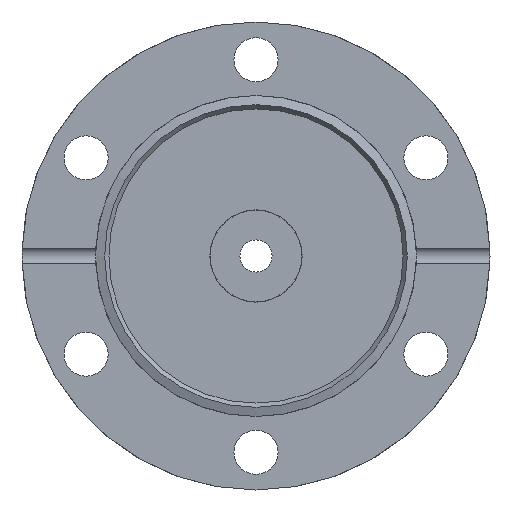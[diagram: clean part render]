
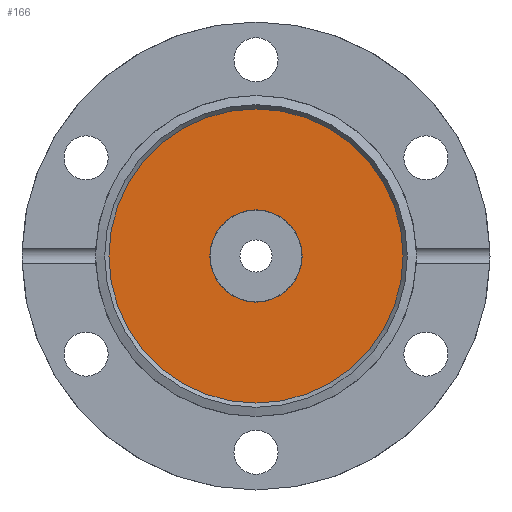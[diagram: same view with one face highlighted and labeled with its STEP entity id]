
A CAD part, left-side view. The second image highlights one B-rep face of the part: STEP entity #166.
In plain terms, the highlighted planar face has unit normal (-1, 0, 0).
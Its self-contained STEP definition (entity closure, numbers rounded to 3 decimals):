
#166 = ADVANCED_FACE( '', ( #345, #346 ), #347, .F. );
#345 = FACE_BOUND( '', #523, .T. );
#346 = FACE_OUTER_BOUND( '', #524, .T. );
#347 = PLANE( '', #525 );
#523 = EDGE_LOOP( '', ( #797 ) );
#524 = EDGE_LOOP( '', ( #798 ) );
#525 = AXIS2_PLACEMENT_3D( '', #799, #800, #801 );
#797 = ORIENTED_EDGE( '', *, *, #922, .F. );
#798 = ORIENTED_EDGE( '', *, *, #976, .T. );
#799 = CARTESIAN_POINT( '', ( -11.4, 0., 22. ) );
#800 = DIRECTION( '', ( 1., 0., 0. ) );
#801 = DIRECTION( '', ( 0., 0., -1. ) );
#922 = EDGE_CURVE( '', #1061, #1061, #1062, .T. );
#976 = EDGE_CURVE( '', #1150, #1150, #1151, .T. );
#1061 = VERTEX_POINT( '', #1255 );
#1062 = CIRCLE( '', #1256, 6.9 );
#1150 = VERTEX_POINT( '', #1413 );
#1151 = CIRCLE( '', #1414, 22. );
#1255 = CARTESIAN_POINT( '', ( -11.4, 0., 6.9 ) );
#1256 = AXIS2_PLACEMENT_3D( '', #1505, #1506, #1507 );
#1413 = CARTESIAN_POINT( '', ( -11.4, 0., 22. ) );
#1414 = AXIS2_PLACEMENT_3D( '', #1579, #1580, #1581 );
#1505 = CARTESIAN_POINT( '', ( -11.4, 0., 0. ) );
#1506 = DIRECTION( '', ( -1., 0., 0. ) );
#1507 = DIRECTION( '', ( 0., 0., 1. ) );
#1579 = CARTESIAN_POINT( '', ( -11.4, 0., 0. ) );
#1580 = DIRECTION( '', ( -1., 0., 0. ) );
#1581 = DIRECTION( '', ( 0., 0., 1. ) );
